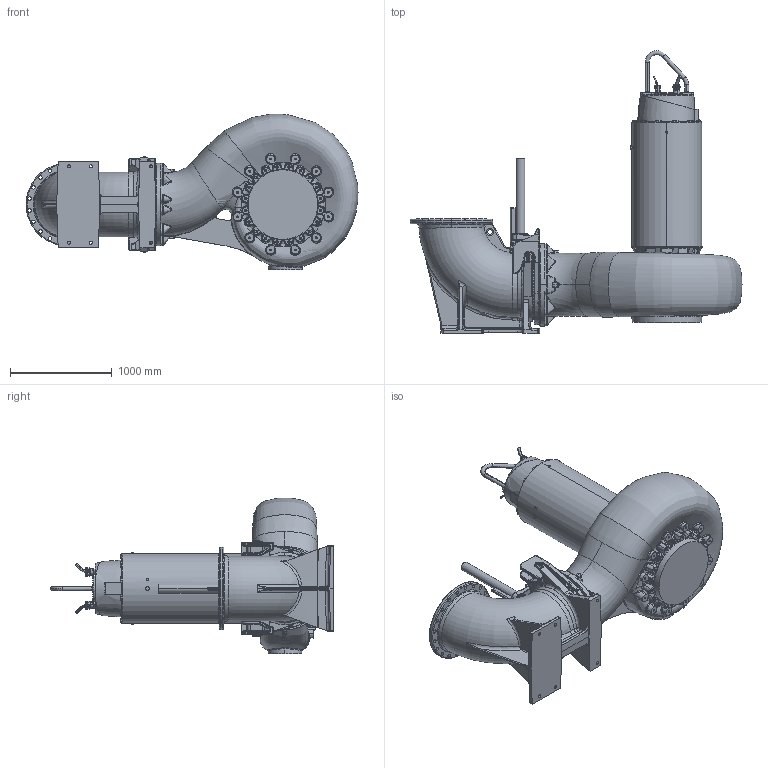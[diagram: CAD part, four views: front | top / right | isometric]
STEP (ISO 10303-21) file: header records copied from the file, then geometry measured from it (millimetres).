
FILE_DESCRIPTION (( 'STEP AP214' ), '1' );
FILE_NAME ('PE6_XFP600V-CH3_WET_C_NG2.STEP', '2017-03-29T09:21:59', ( '' ), ( '' ), 'SwSTEP 2.0', 'SolidWorks 2017', '' );
FILE_SCHEMA (( 'AUTOMOTIVE_DESIGN' ));
Length unit declared in the file: millimetre
Products named in the file (1): PE6_XFP600V-CH3_WET_C_NG2
Bounding box: 3264.34 x 2777.31 x 1532.39 mm (x, y, z)
Volume: 2167508566.5 mm3; surface area: 20615749.2 mm2
Topology: 4 solids, 35 shells, 5087 faces, 12537 edges, 7219 vertices
Faces by surface type: cylinder 1366, bspline 1341, plane 1137, cone 538, torus 481, sphere 224
Entity records: 335894 total; most frequent: CARTESIAN_POINT 172054, ORIENTED_EDGE 24218, DIRECTION 20578, EDGE_CURVE 12109, AXIS2_PLACEMENT_3D 8359, VERTEX_POINT 7219, EDGE_LOOP 5392, UNCERTAINTY_MEASURE_WITH_UNIT 5093
